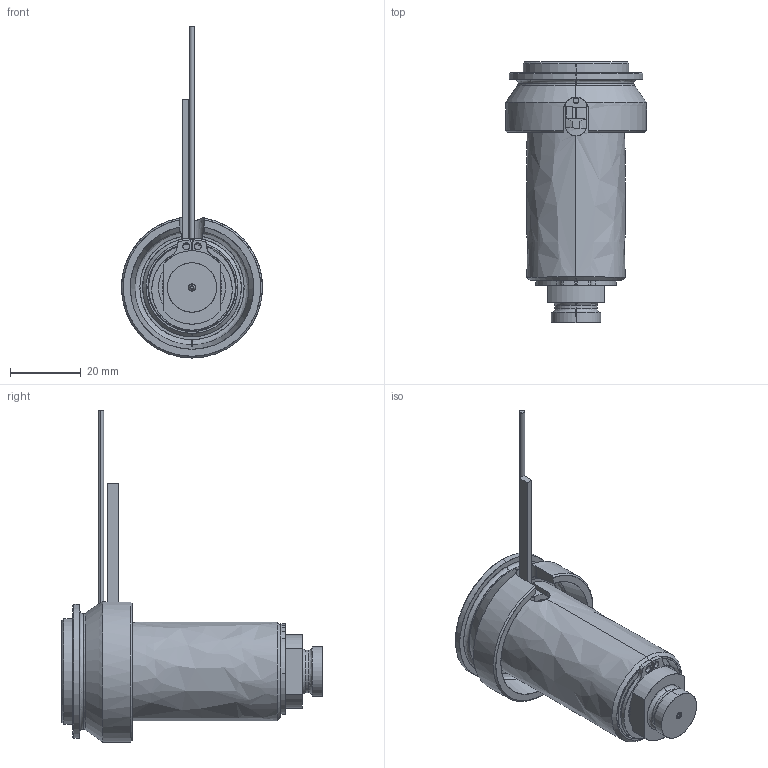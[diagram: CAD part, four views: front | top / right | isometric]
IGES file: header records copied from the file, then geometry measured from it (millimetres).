
Start section: SolidWorks IGES file using analytic representation for surfaces
Global section: file name: C:\Documents and Settings\ws-20\Desktop\TEM\UGEP4101-M-A-0 [Øf-0.88 P-0 ØC-09].IGS; native system: SolidWorks 2012; preprocessor: SolidWorks 2012; author: ws-20; date: 120426.084717; units: millimetre
Bounding box: 40 x 74.25 x 94.15 mm (x, y, z)
Surface area: 24178 mm2 (no closed solid volume)
Topology: 0 solids, 0 shells, 114 faces, 1925 edges, 1925 vertices
Faces by surface type: revolution 64, bspline 50
